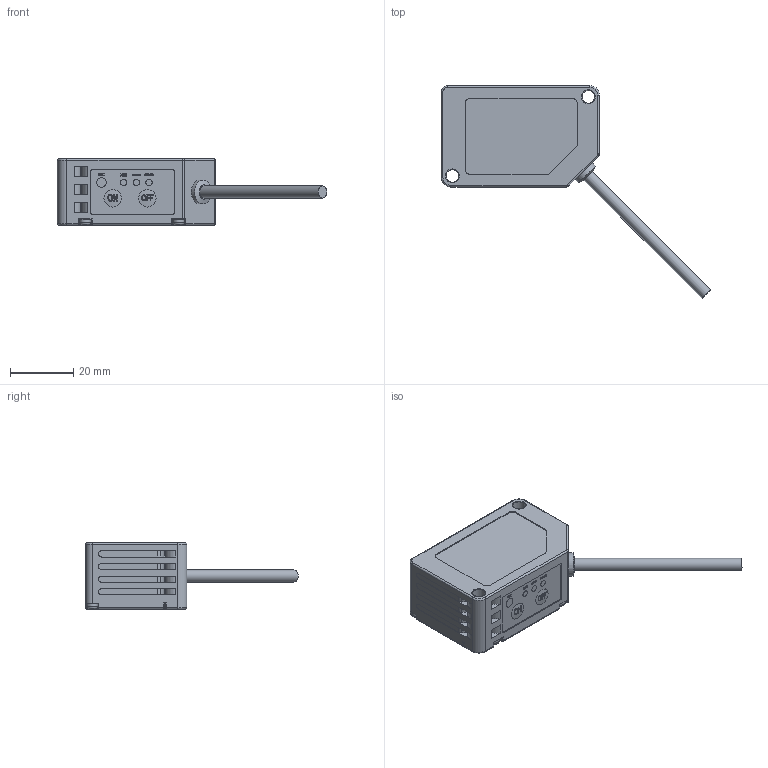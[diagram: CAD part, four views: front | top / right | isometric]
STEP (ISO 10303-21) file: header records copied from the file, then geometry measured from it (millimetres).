
FILE_DESCRIPTION(/* description */ (''),/* implementation_level */ '2;1');
FILE_NAME(/* name */ 'F:\HUAYIFENG\01)HUAYIFENG_宣传文件\01)HUAYIFENG_\X2\5BA34F2065874EF6\X0\_产品资料整合\03)产品3D文档\06)产品3D_标签系列_K12_2019\CR_5_3D.stp',/* time_stamp */ '2019-07-09T15:37:20+08:00',/* author */ ('fengjiarun'),/* organization */ (''),/* preprocessor_version */ 'ST-DEVELOPER v16.5',/* originating_system */ 'Autodesk Inventor 2017',/* authorisation */ '');
FILE_SCHEMA (('AUTOMOTIVE_DESIGN { 1 0 10303 214 3 1 1 }'));
Length unit declared in the file: millimetre
Products named in the file (1): 零件3
Bounding box: 85.19 x 67.19 x 21 mm (x, y, z)
Volume: 31410.2 mm3; surface area: 8750.9 mm2
Topology: 2 solids, 2 shells, 783 faces, 1971 edges, 1248 vertices
Faces by surface type: plane 272, cylinder 228, bspline 209, torus 62, sphere 7, cone 5
Full cylindrical faces by diameter (mm): 3.5 x4, 3.8 x1, 4 x2, 7.5 x1
Entity records: 28522 total; most frequent: CARTESIAN_POINT 10120, ORIENTED_EDGE 3868, DIRECTION 3284, EDGE_CURVE 1934, VERTEX_POINT 1235, AXIS2_PLACEMENT_3D 1199, LINE 886, VECTOR 886
